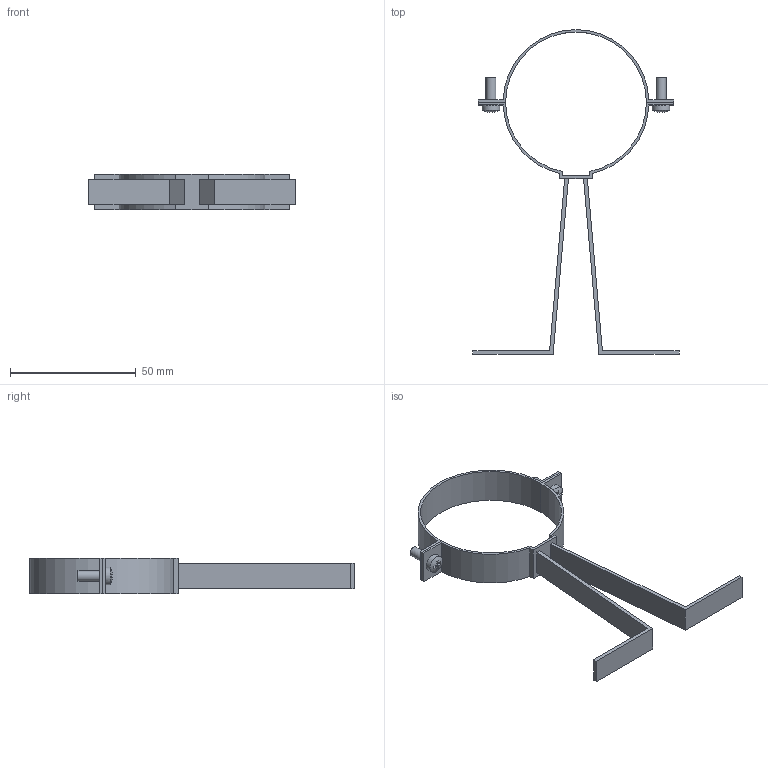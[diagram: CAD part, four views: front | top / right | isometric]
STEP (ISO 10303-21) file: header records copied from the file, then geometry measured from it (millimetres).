
FILE_DESCRIPTION( ( 'STEP AP214' ), '1' );
FILE_NAME( 'C:/Users/ilukic/Documents/ex/gebaudeentwasserung/pe/pipe bracket w_support/363856.stp', '2020-03-26T18:42:27', ( '' ), ( '' ), ' ', 'PARTsolutions', ' ' );
FILE_SCHEMA( ( 'AUTOMOTIVE_DESIGN { 1 0 10303 214 1 1 1 1 }' ) );
Length unit declared in the file: millimetre
Products named in the file (1): _363856
Bounding box: 82 x 129.23 x 14 mm (x, y, z)
Volume: 6524.1 mm3; surface area: 11657.6 mm2
Topology: 1 solids, 1 shells, 78 faces, 208 edges, 140 vertices
Faces by surface type: plane 64, cylinder 12, bspline 2
Full cylindrical faces by diameter (mm): 4 x4, 7 x2
Entity records: 3058 total; most frequent: CARTESIAN_POINT 577, ORIENTED_EDGE 384, DIRECTION 346, EDGE_CURVE 192, LINE 144, VECTOR 144, VERTEX_POINT 132, AXIS2_PLACEMENT_3D 101
